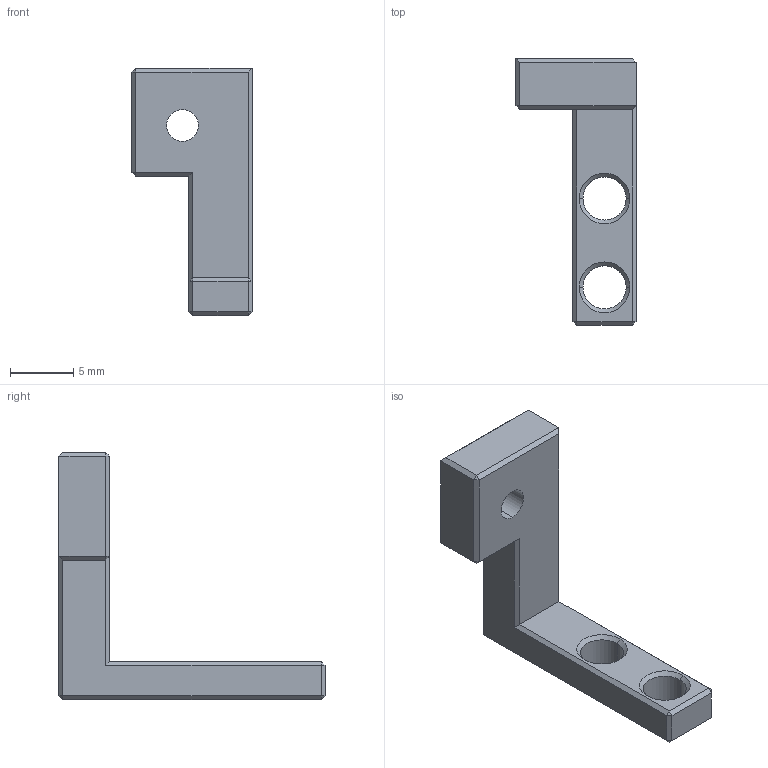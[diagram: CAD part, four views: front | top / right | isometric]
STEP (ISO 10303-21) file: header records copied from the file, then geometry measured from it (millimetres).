
FILE_DESCRIPTION (( 'STEP AP203' ), '1' );
FILE_NAME ('大位移台L型变形件.STEP', '2026-10-15T07:52:06', ( '' ), ( '' ), 'SwSTEP 2.0', 'SolidWorks 2024', '' );
FILE_SCHEMA (( 'CONFIG_CONTROL_DESIGN' ));
Length unit declared in the file: millimetre
Products named in the file (1): 大位移台L型变形件
Bounding box: 9.5 x 21 x 19.5 mm (x, y, z)
Volume: 713.2 mm3; surface area: 783 mm2
Topology: 1 solids, 1 shells, 52 faces, 110 edges, 60 vertices
Faces by surface type: plane 38, cone 8, cylinder 6
Entity records: 1423 total; most frequent: DIRECTION 236, CARTESIAN_POINT 223, ORIENTED_EDGE 220, EDGE_CURVE 110, VECTOR 90, LINE 90, AXIS2_PLACEMENT_3D 73, VERTEX_POINT 60
